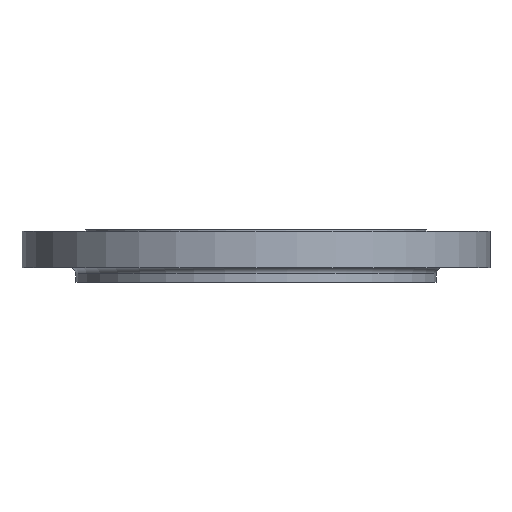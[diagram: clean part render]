
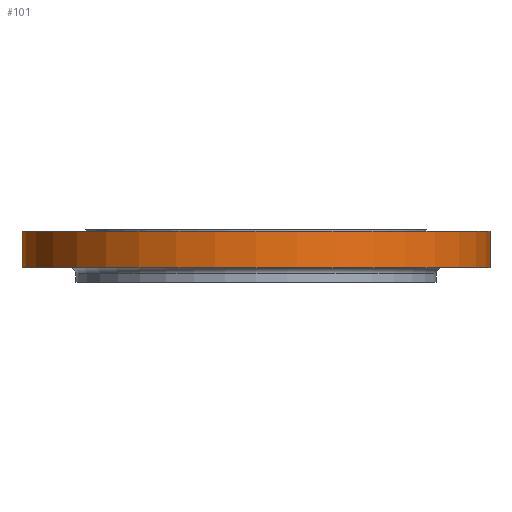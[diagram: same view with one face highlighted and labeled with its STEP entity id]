
A CAD part, front view. The second image highlights one B-rep face of the part: STEP entity #101.
In plain terms, the highlighted cylindrical face has radius 445 mm (diameter 890 mm), a partial arc.
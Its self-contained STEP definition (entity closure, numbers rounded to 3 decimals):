
#69 = AXIS2_PLACEMENT_3D ( 'NONE', #210, #209, #206 ) ;
#84 = CARTESIAN_POINT ( 'NONE',  ( -445., 0., -72. ) ) ;
#101 = ADVANCED_FACE ( 'NONE', ( #965 ), #962, .T. ) ;
#153 = AXIS2_PLACEMENT_3D ( 'NONE', #961, #958, #957 ) ;
#190 = CARTESIAN_POINT ( 'NONE',  ( 445., 0., -72. ) ) ;
#206 = DIRECTION ( 'NONE',  ( -1., 0., 0. ) ) ;
#209 = DIRECTION ( 'NONE',  ( 0., 0., -1. ) ) ;
#210 = CARTESIAN_POINT ( 'NONE',  ( 0., 0., -3. ) ) ;
#336 = EDGE_CURVE ( 'NONE', #1619, #1804, #826, .T. ) ;
#410 = EDGE_CURVE ( 'NONE', #1503, #1155, #798, .T. ) ;
#459 = CARTESIAN_POINT ( 'NONE',  ( 445., 0., -3. ) ) ;
#597 = VECTOR ( 'NONE', #824, 1000. ) ;
#622 = EDGE_CURVE ( 'NONE', #1619, #1503, #1772, .T. ) ;
#658 = VECTOR ( 'NONE', #796, 1000. ) ;
#678 = DIRECTION ( 'NONE',  ( 1., 0., 0. ) ) ;
#679 = DIRECTION ( 'NONE',  ( 0., 0., 1. ) ) ;
#681 = CARTESIAN_POINT ( 'NONE',  ( 0., 0., -72. ) ) ;
#796 = DIRECTION ( 'NONE',  ( 0., 0., 1. ) ) ;
#797 = CARTESIAN_POINT ( 'NONE',  ( 445., 0., -150. ) ) ;
#798 = LINE ( 'NONE', #797, #658 ) ;
#824 = DIRECTION ( 'NONE',  ( 0., 0., 1. ) ) ;
#825 = CARTESIAN_POINT ( 'NONE',  ( -445., 0., -150. ) ) ;
#826 = LINE ( 'NONE', #825, #597 ) ;
#913 = CARTESIAN_POINT ( 'NONE',  ( -445., 0., -3. ) ) ;
#957 = DIRECTION ( 'NONE',  ( 1., 0., 0. ) ) ;
#958 = DIRECTION ( 'NONE',  ( 0., 0., 1. ) ) ;
#961 = CARTESIAN_POINT ( 'NONE',  ( 0., 0., -150. ) ) ;
#962 = CYLINDRICAL_SURFACE ( 'NONE', #153, 445. ) ;
#965 = FACE_OUTER_BOUND ( 'NONE', #1736, .T. ) ;
#1155 = VERTEX_POINT ( 'NONE', #459 ) ;
#1310 = ORIENTED_EDGE ( 'NONE', *, *, #1489, .T. ) ;
#1312 = ORIENTED_EDGE ( 'NONE', *, *, #410, .T. ) ;
#1313 = ORIENTED_EDGE ( 'NONE', *, *, #622, .T. ) ;
#1316 = ORIENTED_EDGE ( 'NONE', *, *, #336, .F. ) ;
#1489 = EDGE_CURVE ( 'NONE', #1155, #1804, #1493, .T. ) ;
#1493 = CIRCLE ( 'NONE', #69, 445. ) ;
#1503 = VERTEX_POINT ( 'NONE', #190 ) ;
#1619 = VERTEX_POINT ( 'NONE', #84 ) ;
#1736 = EDGE_LOOP ( 'NONE', ( #1316, #1313, #1312, #1310 ) ) ;
#1761 = AXIS2_PLACEMENT_3D ( 'NONE', #681, #679, #678 ) ;
#1772 = CIRCLE ( 'NONE', #1761, 445. ) ;
#1804 = VERTEX_POINT ( 'NONE', #913 ) ;
